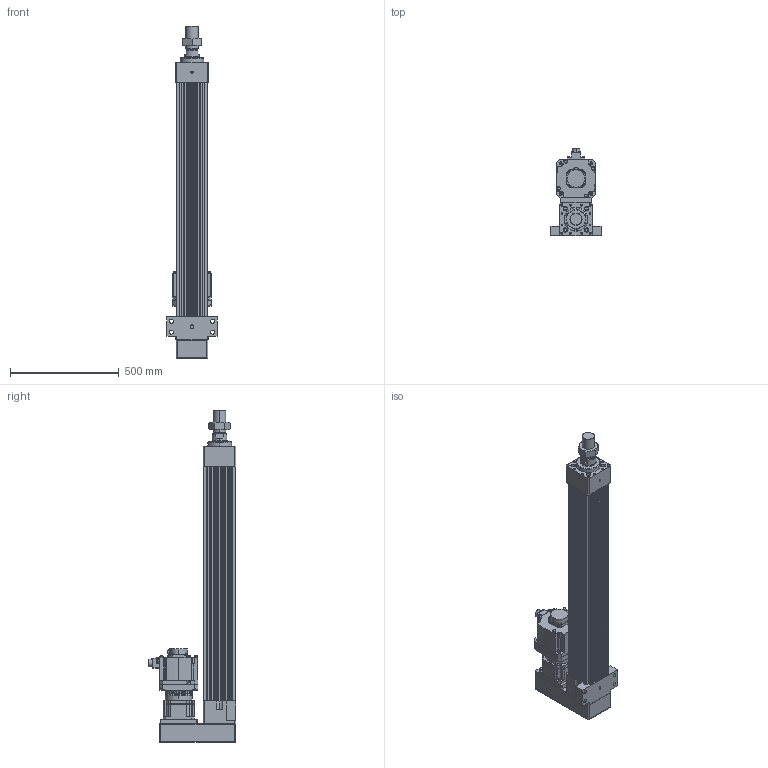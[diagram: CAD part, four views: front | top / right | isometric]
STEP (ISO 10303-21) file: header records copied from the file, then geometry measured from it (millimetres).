
FILE_DESCRIPTION (( 'STEP AP203' ), '1' );
FILE_NAME ('HES150NS(HS)-P800-W035G00-M-FFC.STEP', '2023-01-31T10:02:37', ( 'tms' ), ( '' ), 'SwSTEP 2.0', 'SolidWorks 2013', '' );
FILE_SCHEMA (( 'CONFIG_CONTROL_DESIGN' ));
Length unit declared in the file: millimetre
Products named in the file (9): HG-SR352; P0403500801; HES150-P800-G142-FFC; P1301500001; HES150 ROD M ST800; AB142-003[HG-SR352]; AB1421; HES150NS(HS)-P800-W035G00-M-FFC; M56X2.0P
Assembly tree (8 placements, depth 3):
  HES150NS(HS)-P800-W035G00-M-FFC
    HES150-P800-G142-FFC
    HES150 ROD M ST800
    M56X2.0P
    AB142-003[HG-SR352]
      AB1421
      P1301500001
      P0403500801
    HG-SR352
Bounding box: 230 x 403.85 x 1526 mm (x, y, z)
Volume: 23504554.5 mm3; surface area: 2449399.8 mm2
Topology: 4 solids, 18 shells, 1470 faces, 3831 edges, 2471 vertices
Faces by surface type: cylinder 693, plane 529, cone 166, bspline 76, torus 6
Entity records: 53945 total; most frequent: CARTESIAN_POINT 16549, DIRECTION 7839, ORIENTED_EDGE 7520, EDGE_CURVE 3782, AXIS2_PLACEMENT_3D 2986, VERTEX_POINT 2471, LINE 1867, VECTOR 1867
